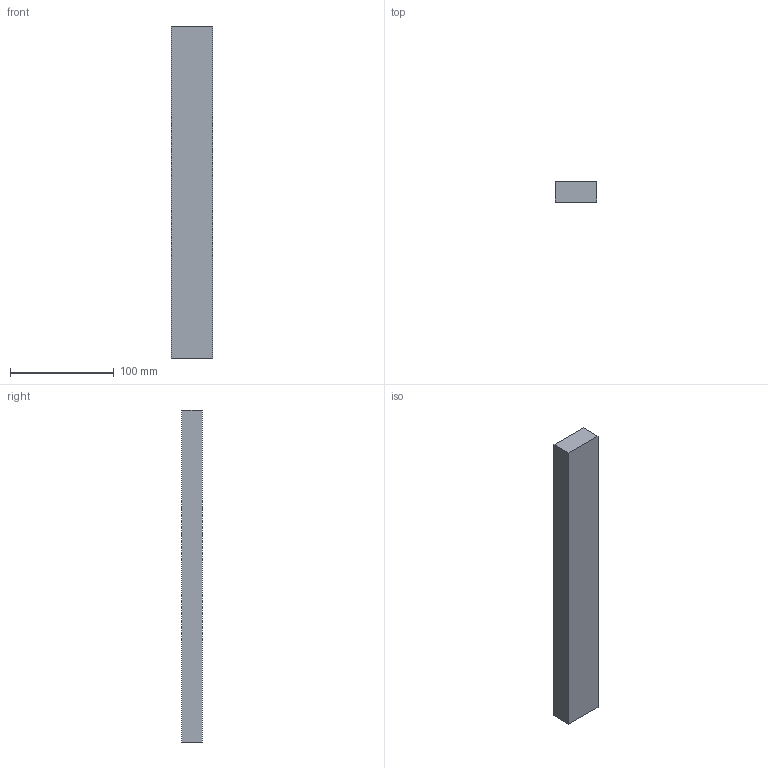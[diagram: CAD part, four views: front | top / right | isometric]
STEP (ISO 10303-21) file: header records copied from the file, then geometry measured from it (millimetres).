
FILE_DESCRIPTION(/* description */ (''),/* implementation_level */ '2;1');
FILE_NAME(/* name */ 'FR3807~1',/* time_stamp */ '2014-02-14T19:32:03+01:00',/* author */ (''),/* organization */ (''),/* preprocessor_version */ 'ST-DEVELOPER v14',/* originating_system */ '',/* authorisation */ '');
FILE_SCHEMA (('AUTOMOTIVE_DESIGN'));
Length unit declared in the file: millimetre
Products named in the file (1): Document
Bounding box: 40 x 20 x 320 mm (x, y, z)
Volume: 256000 mm3; surface area: 40000 mm2
Topology: 1 solids, 1 shells, 6 faces, 12 edges, 8 vertices
Faces by surface type: plane 6
Entity records: 298 total; most frequent: CARTESIAN_POINT 88, B_SPLINE_CURVE_WITH_KNOTS 36, ORIENTED_EDGE 24, PCURVE 24, DEFINITIONAL_REPRESENTATION 24, SURFACE_CURVE 12, EDGE_CURVE 12, DIRECTION 10
